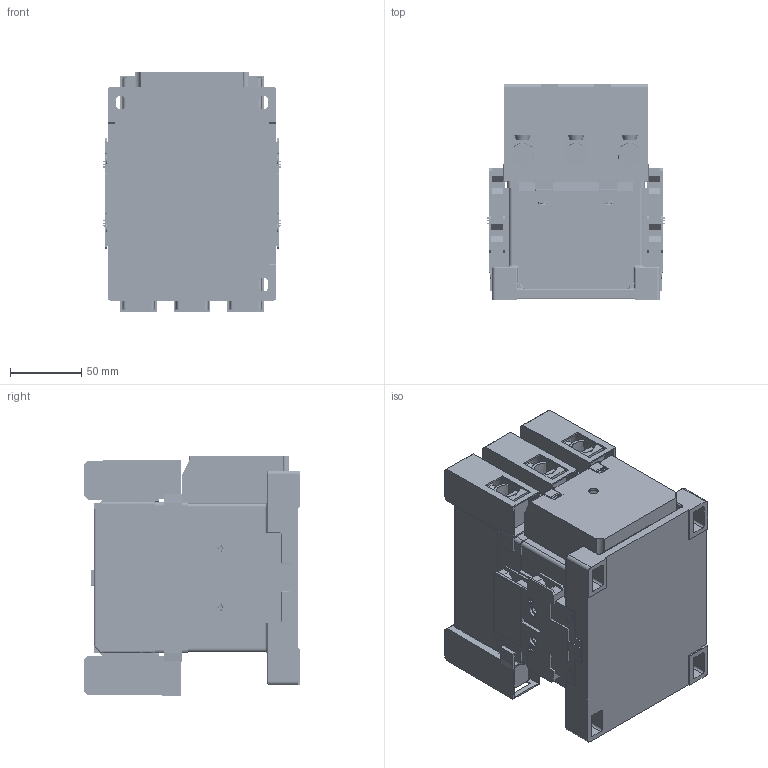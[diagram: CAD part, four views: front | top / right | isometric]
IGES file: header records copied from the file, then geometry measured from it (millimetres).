
Start section: SolidWorks IGES file using analytic representation for surfaces
Global section: file name: Q:\GROUPS\BR_SC_JGS_WA_TECNICO\ENG\Usuarios\Rodrigob\conversão\contatores\Produto\CWM112...150E+TB150\CWM112...150E+TB150.IGS; native system: SolidWorks 2012; preprocessor: SolidWorks 2012; author: rodrigob; date: 130903.134953; units: millimetre
Bounding box: 124.2 x 151.07 x 167.56 mm (x, y, z)
Surface area: 372343.4 mm2 (no closed solid volume)
Topology: 0 solids, 0 shells, 3566 faces, 34150 edges, 34104 vertices
Faces by surface type: bspline 2485, revolution 1081
